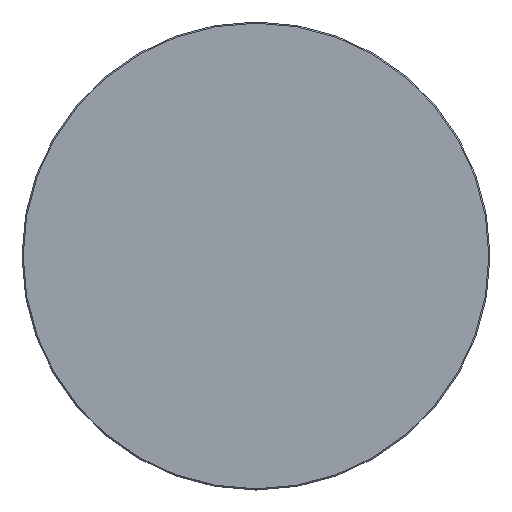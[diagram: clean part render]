
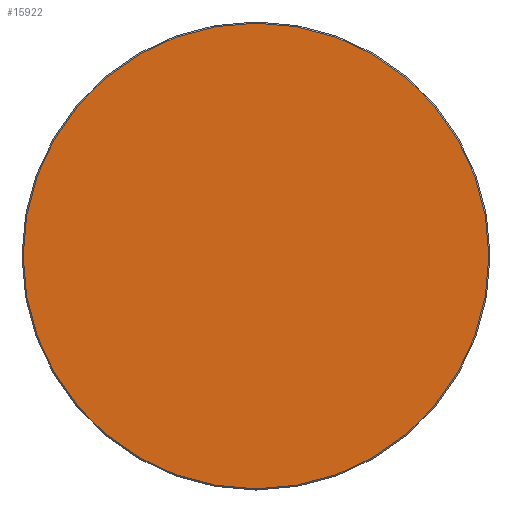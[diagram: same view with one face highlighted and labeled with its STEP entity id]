
A CAD part, top view. The second image highlights one B-rep face of the part: STEP entity #15922.
In plain terms, the highlighted planar face has unit normal (0, 0, 1).
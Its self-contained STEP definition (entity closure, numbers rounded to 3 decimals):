
#15847=CARTESIAN_POINT('',(0.,0.,20.));
#15848=DIRECTION('',(1.,0.,0.));
#15849=DIRECTION('',(0.,0.,1.));
#15850=AXIS2_PLACEMENT_3D('',#15847,#15849,#15848);
#15851=PLANE('',#15850);
#15852=CARTESIAN_POINT('',(-0.5,-298.5,20.));
#15853=VERTEX_POINT('',#15852);
#15854=CARTESIAN_POINT('',(0.5,-298.5,20.));
#15855=VERTEX_POINT('',#15854);
#15856=CARTESIAN_POINT('',(-0.5,-298.5,20.));
#15857=DIRECTION('',(1.,0.,0.));
#15858=VECTOR('',#15857,1.);
#15859=LINE('',#15856,#15858);
#15860=EDGE_CURVE('',#15853,#15855,#15859,.T.);
#15861=ORIENTED_EDGE('E105',*,*,#15860,.T.);
#15862=CARTESIAN_POINT('',(298.5,-0.5,20.));
#15863=VERTEX_POINT('',#15862);
#15864=CARTESIAN_POINT('',(0.5,-0.5,20.));
#15865=DIRECTION('',(0.,-1.,0.));
#15866=DIRECTION('',(0.,0.,1.));
#15867=AXIS2_PLACEMENT_3D('',#15864,#15866,#15865);
#15868=CIRCLE('',#15867,298.);
#15869=EDGE_CURVE('',#15855,#15863,#15868,.T.);
#15870=ORIENTED_EDGE('E107',*,*,#15869,.T.);
#15871=CARTESIAN_POINT('',(298.5,0.5,20.));
#15872=VERTEX_POINT('',#15871);
#15873=CARTESIAN_POINT('',(298.5,-0.5,20.));
#15874=DIRECTION('',(0.,1.,0.));
#15875=VECTOR('',#15874,1.);
#15876=LINE('',#15873,#15875);
#15877=EDGE_CURVE('',#15863,#15872,#15876,.T.);
#15878=ORIENTED_EDGE('E109',*,*,#15877,.T.);
#15879=CARTESIAN_POINT('',(0.5,298.5,20.));
#15880=VERTEX_POINT('',#15879);
#15881=CARTESIAN_POINT('',(0.5,0.5,20.));
#15882=DIRECTION('',(1.,0.,0.));
#15883=DIRECTION('',(0.,0.,1.));
#15884=AXIS2_PLACEMENT_3D('',#15881,#15883,#15882);
#15885=CIRCLE('',#15884,298.);
#15886=EDGE_CURVE('',#15872,#15880,#15885,.T.);
#15887=ORIENTED_EDGE('E111',*,*,#15886,.T.);
#15888=CARTESIAN_POINT('',(-0.5,298.5,20.));
#15889=VERTEX_POINT('',#15888);
#15890=CARTESIAN_POINT('',(0.5,298.5,20.));
#15891=DIRECTION('',(-1.,0.,0.));
#15892=VECTOR('',#15891,1.);
#15893=LINE('',#15890,#15892);
#15894=EDGE_CURVE('',#15880,#15889,#15893,.T.);
#15895=ORIENTED_EDGE('E113',*,*,#15894,.T.);
#15896=CARTESIAN_POINT('',(-298.5,0.5,20.));
#15897=VERTEX_POINT('',#15896);
#15898=CARTESIAN_POINT('',(-0.5,0.5,20.));
#15899=DIRECTION('',(0.,1.,0.));
#15900=DIRECTION('',(0.,0.,1.));
#15901=AXIS2_PLACEMENT_3D('',#15898,#15900,#15899);
#15902=CIRCLE('',#15901,298.);
#15903=EDGE_CURVE('',#15889,#15897,#15902,.T.);
#15904=ORIENTED_EDGE('E115',*,*,#15903,.T.);
#15905=CARTESIAN_POINT('',(-298.5,-0.5,20.));
#15906=VERTEX_POINT('',#15905);
#15907=CARTESIAN_POINT('',(-298.5,0.5,20.));
#15908=DIRECTION('',(0.,-1.,0.));
#15909=VECTOR('',#15908,1.);
#15910=LINE('',#15907,#15909);
#15911=EDGE_CURVE('',#15897,#15906,#15910,.T.);
#15912=ORIENTED_EDGE('E117',*,*,#15911,.T.);
#15913=CARTESIAN_POINT('',(-0.5,-0.5,20.));
#15914=DIRECTION('',(-1.,0.,0.));
#15915=DIRECTION('',(-0.,0.,1.));
#15916=AXIS2_PLACEMENT_3D('',#15913,#15915,#15914);
#15917=CIRCLE('',#15916,298.);
#15918=EDGE_CURVE('',#15906,#15853,#15917,.T.);
#15919=ORIENTED_EDGE('E119',*,*,#15918,.T.);
#15920=EDGE_LOOP('',(#15861,#15870,#15878,#15887,#15895,#15904,#15912,#15919));
#15921=FACE_OUTER_BOUND('',#15920,.T.);
#15922=ADVANCED_FACE('F2',(#15921),#15851,.T.);
